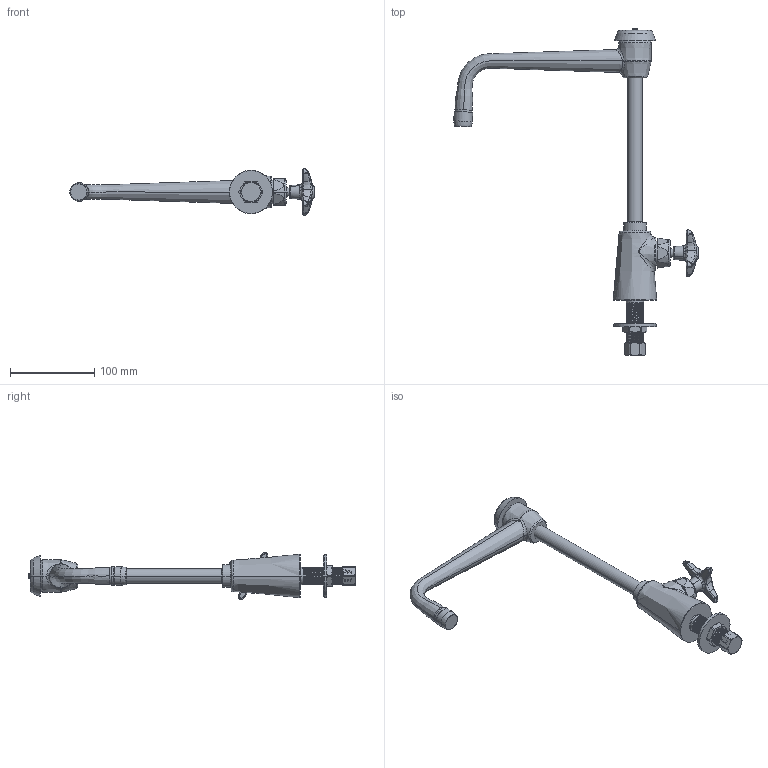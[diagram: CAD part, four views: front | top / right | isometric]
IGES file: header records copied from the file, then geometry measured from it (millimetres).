
Start section:  PTC IGES file: LWS3-B23-H.igs
Global section: file name: LWS3-B23-H.igs; native system: Creo Parametric by PTC Inc.; preprocessor: 2017260; author: usch_engrender; organization: Unknown; date: 20190829.154401; units: inch
Bounding box: 289.89 x 387.27 x 55.72 mm (x, y, z)
Surface area: 76134.1 mm2 (no closed solid volume)
Topology: 0 solids, 22 shells, 373 faces, 946 edges, 592 vertices
Faces by surface type: bspline 187, revolution 186
